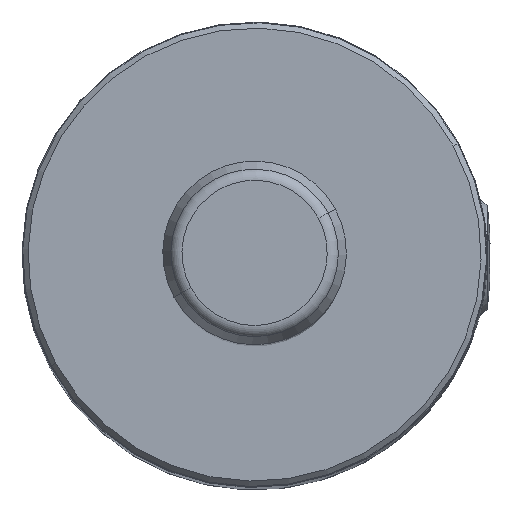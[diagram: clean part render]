
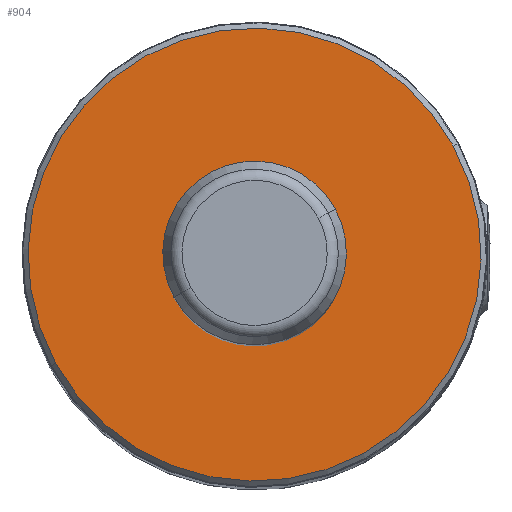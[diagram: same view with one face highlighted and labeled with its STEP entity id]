
A CAD part, top view. The second image highlights one B-rep face of the part: STEP entity #904.
In plain terms, the highlighted planar face has unit normal (0, 0, 1).
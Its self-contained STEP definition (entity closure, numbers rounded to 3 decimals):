
#881=CARTESIAN_POINT('Axis2P3D Location',(18.5,0.,128.)) ;
#886=CARTESIAN_POINT('Axis2P3D Location',(0.,0.,128.)) ;
#890=CARTESIAN_POINT('Vertex',(16.235,8.869,128.)) ;
#892=CARTESIAN_POINT('Vertex',(-16.235,-8.869,128.)) ;
#895=CARTESIAN_POINT('Axis2P3D Location',(0.,0.,128.)) ;
#882=DIRECTION('Axis2P3D Direction',(0.,0.,1.)) ;
#883=DIRECTION('Axis2P3D XDirection',(1.,0.,0.)) ;
#887=DIRECTION('Axis2P3D Direction',(0.,0.,1.)) ;
#896=DIRECTION('Axis2P3D Direction',(0.,0.,1.)) ;
#884=AXIS2_PLACEMENT_3D('Plane Axis2P3D',#881,#882,#883) ;
#888=AXIS2_PLACEMENT_3D('Circle Axis2P3D',#886,#887,$) ;
#897=AXIS2_PLACEMENT_3D('Circle Axis2P3D',#895,#896,$) ;
#901=ORIENTED_EDGE('',*,*,#894,.T.) ;
#902=ORIENTED_EDGE('',*,*,#899,.T.) ;
#904=ADVANCED_FACE('',(#903),#885,.T.) ;
#889=CIRCLE('generated circle',#888,18.5) ;
#898=CIRCLE('generated circle',#897,18.5) ;
#894=EDGE_CURVE('',#891,#893,#889,.T.) ;
#899=EDGE_CURVE('',#893,#891,#898,.T.) ;
#900=EDGE_LOOP('',(#901,#902)) ;
#903=FACE_OUTER_BOUND('',#900,.T.) ;
#885=PLANE('Plane',#884) ;
#891=VERTEX_POINT('',#890) ;
#893=VERTEX_POINT('',#892) ;
